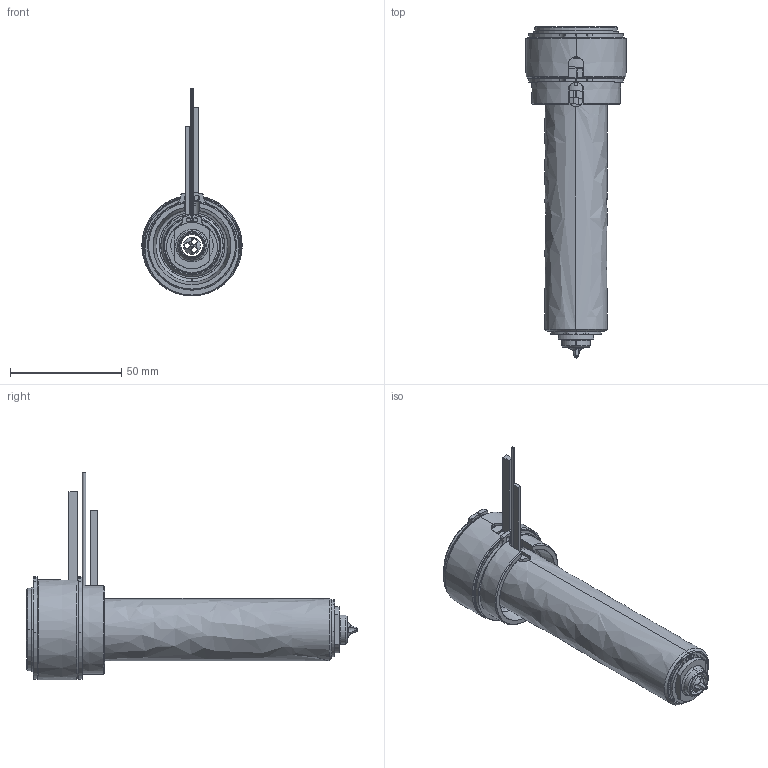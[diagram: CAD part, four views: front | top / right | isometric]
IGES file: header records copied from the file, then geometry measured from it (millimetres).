
Start section: SolidWorks IGES file using analytic representation for surfaces
Global section: file name: C:\Documents and Settings\ws-20\Desktop\TEM\UGEP4503-M-A-1 [Øf-1.31 ØC-10].IGS; native system: SolidWorks 2012; preprocessor: SolidWorks 2012; author: ws-20; date: 120424.090742; units: millimetre
Bounding box: 45 x 149.05 x 93.15 mm (x, y, z)
Surface area: 54682.1 mm2 (no closed solid volume)
Topology: 0 solids, 0 shells, 179 faces, 3301 edges, 3301 vertices
Faces by surface type: revolution 113, bspline 66
